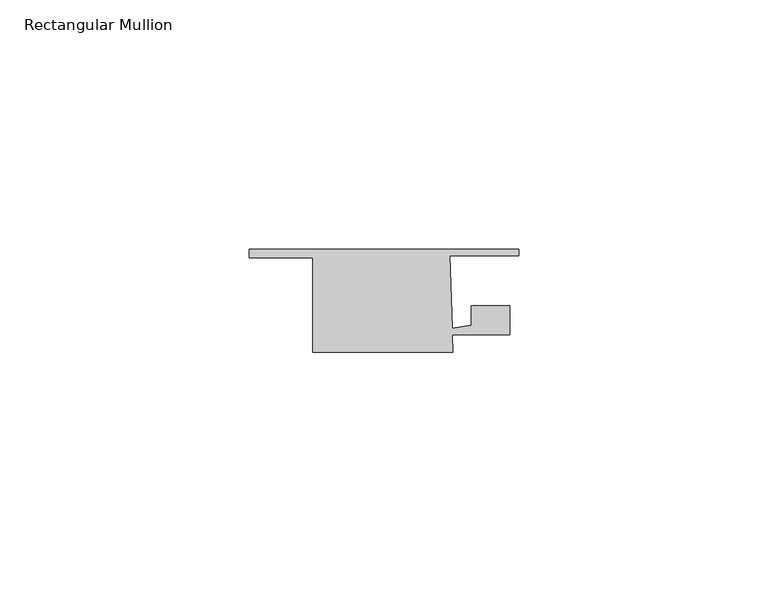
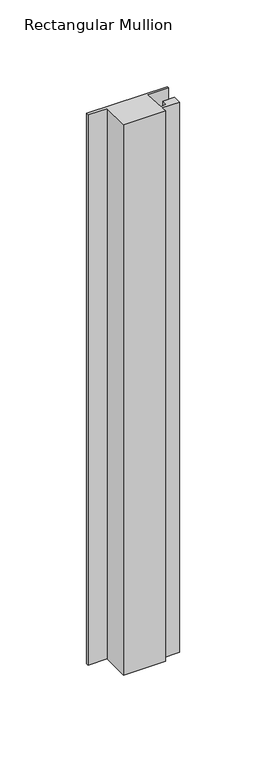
"""IFC4 building model written with IfcOpenShell, lengths in millimetres: member geometry, Rectangular Mullion : QuickPanel-Absolute_Projecting-Window-Sill-Trim."""

from ifc_helpers import new_model, si_unit, frame, origin, place, context, project, spatial, polyline, outline, extrude, source, transform, mapped, element, save


def rectangular_mullion_bb838922(model_context):
    return source(origin(), model_context, "Body", "SweptSolid", [
        extrude(outline(polyline([(15.2537677, -8.4571273), (-12.861394, -8.4571273), (-12.861394, 10.4985348), (-25.561394, 10.4985348), (-25.561394, 12.1803727), (28.4330946, 12.1803727), (28.4330946, 10.9303752), (14.5767412, 10.9303752), (15.0859887, -3.6525665), (18.9062372, -2.9976535), (18.9062372, 0.8868034), (26.6510103, 0.8868034), (26.6510103, -4.9475935), (15.1312121, -4.9475935), (15.2537677, -8.4571273)])), frame((0.0, 0.0, -387.814328), z_axis=(0.0, 0.0, 1.0), x_axis=(1.0, 0.0, 0.0)), (0.0, 0.0, 1.0), 387.814328),
    ])


if __name__ == "__main__":
    model = new_model("IFC4")
    model_context = context("Model", 3, world=origin())
    ifc_project = project(units=[si_unit("LENGTHUNIT", "METRE", prefix="MILLI")], contexts=[model_context])
    site = spatial("IfcSite", under=ifc_project)
    building = spatial("IfcBuilding", under=site)
    placement = place(None, origin())
    rectangular_mullion_shape = rectangular_mullion_bb838922(model_context)
    element("IfcMember", 1, ObjectType="Rectangular Mullion : QuickPanel-Absolute_Projecting-Window-Sill-Trim", at=placement, inside=building, context=model_context, shape_type="MappedRepresentation", body=[
        mapped(rectangular_mullion_shape, transform((0.0, 0.0, 0.0), x_axis=(1.0, 0.0, 0.0), y_axis=(0.0, 1.0, 0.0), z_axis=(0.0, 0.0, 1.0))),
    ])
    save(model, "model.ifc")
